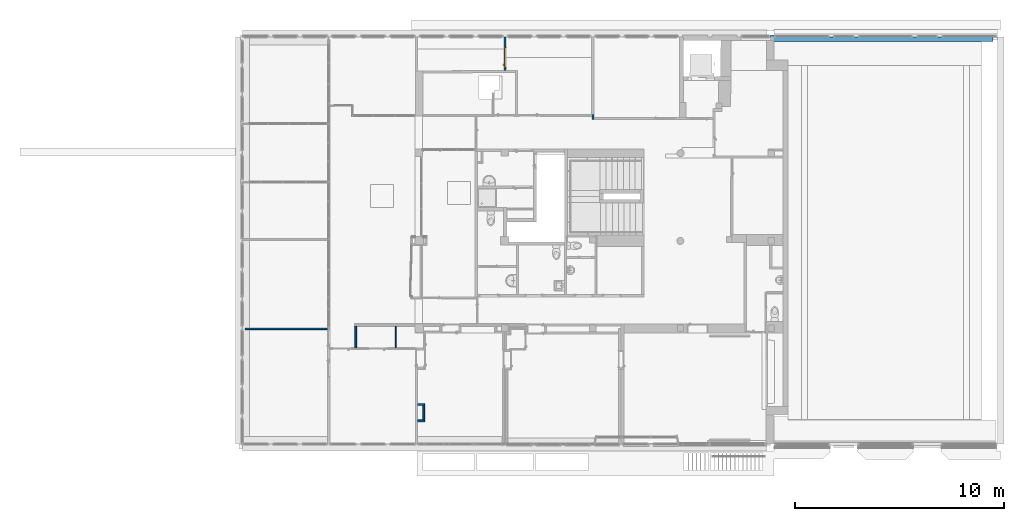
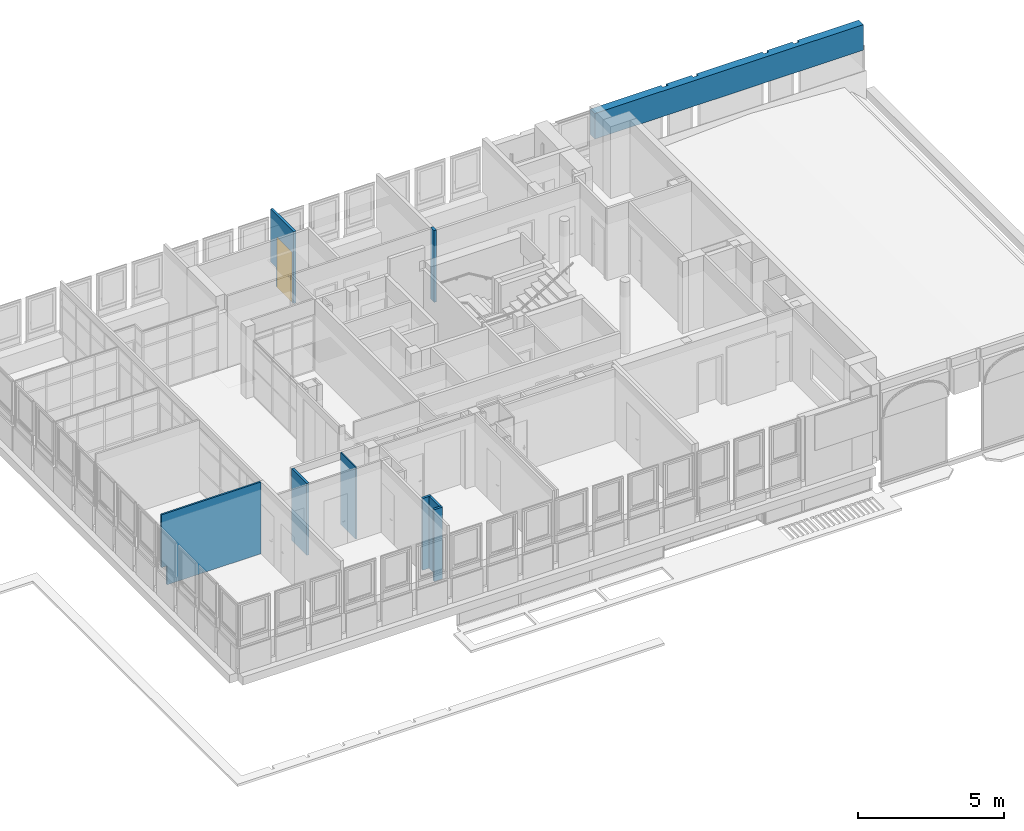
# One storey, part 51 of 97: 9 walls, 1 door, 2 openings.
"""IFC4 building model written with IfcOpenShell, lengths in metres."""

import ifcopenshell
import ifcopenshell.guid

model = None  # the IFC model being written
_history = None  # IfcOwnerHistory: only IFC2X3 demands one
_inside = {}  # id of a spatial element -> (the spatial element, [elements in it])
_under = {}  # id of a project, library or spatial element -> (it, [spatial elements below it])
_declared = {}  # id of a project -> (the project, [libraries it declares])
_typed = {}  # id of a type object -> (the type object, [elements of that type])
_made_of = {}  # id of a material, layer set ... -> (it, [elements and type objects made of it])


def new_model(schema):
    """Start an empty IFC model of exactly this schema.

    Asked for "IFC4X3", IfcOpenShell would pick the latest addendum, in which some entities
    have other attributes; the version numbers below select the first issue.
    IFC2X3 requires an IfcOwnerHistory on every rooted entity: one is made here for all.
    """
    global model, _history
    if schema == "IFC4X3":
        model = ifcopenshell.file(schema_version=(4, 3, 0, 0))
    else:
        model = ifcopenshell.file(schema=schema)
    _inside.clear()
    _under.clear()
    _declared.clear()
    _typed.clear()
    _made_of.clear()
    _history = None
    if model.schema == "IFC2X3":
        org = make("IfcOrganization", Name="unknown")
        user = make(
            "IfcPersonAndOrganization",
            ThePerson=make("IfcPerson", FamilyName="unknown"),
            TheOrganization=org,
        )
        app = make(
            "IfcApplication",
            ApplicationDeveloper=org,
            Version="unknown",
            ApplicationFullName="unknown",
            ApplicationIdentifier="unknown",
        )
        _history = make(
            "IfcOwnerHistory",
            OwningUser=user,
            OwningApplication=app,
            ChangeAction="ADDED",
            CreationDate=0,
        )
    return model


def make(cls, **values):
    """One entity of the class cls with the attributes given. An attribute that is None is left unset."""
    return model.create_entity(
        cls, **{name: value for name, value in values.items() if value is not None}
    )


def entity(cls, *values):
    """Any entity or typed value of the class cls, its attributes in the order of the schema. None: left unset."""
    e = model.create_entity(cls)
    for i, value in enumerate(values):
        if value is not None:
            e[i] = value
    return e


def rooted(cls, **values):
    """An entity with a GlobalId (a new one), such as an element, a storey or a relation."""
    return make(cls, GlobalId=ifcopenshell.guid.new(), OwnerHistory=_history, **values)


def si_unit(unit_type, name, prefix=None):
    """IfcSIUnit, for example si_unit("LENGTHUNIT", "METRE", prefix="MILLI")."""
    return make("IfcSIUnit", UnitType=unit_type, Prefix=prefix, Name=name)


def converted_unit(unit_type, name, factor, base, dimensions=None, offset=None):
    """IfcConversionBasedUnit, such as the inch: factor (a typed value) times the base unit."""
    return make(
        "IfcConversionBasedUnit"
        if offset is None
        else "IfcConversionBasedUnitWithOffset",
        ConversionOffset=offset,
        Dimensions=None
        if dimensions is None
        else entity("IfcDimensionalExponents", *dimensions),
        UnitType=unit_type,
        Name=name,
        ConversionFactor=make(
            "IfcMeasureWithUnit", ValueComponent=factor, UnitComponent=base
        ),
    )


def derived_unit(unit_type, elements):
    """IfcDerivedUnit: a product of units, each with its exponent."""
    return make(
        "IfcDerivedUnit",
        Elements=[
            make("IfcDerivedUnitElement", Unit=unit, Exponent=power)
            for unit, power in elements
        ],
        UnitType=unit_type,
    )


def assignment(units):
    """IfcUnitAssignment: the units of a project."""
    return None if units is None else make("IfcUnitAssignment", Units=units)


def point(xyz):
    """IfcCartesianPoint."""
    return None if xyz is None else make("IfcCartesianPoint", Coordinates=xyz)


def direction(xyz):
    """IfcDirection."""
    return None if xyz is None else make("IfcDirection", DirectionRatios=xyz)


def frame(location, z_axis=None, x_axis=None):
    """IfcAxis2Placement3D, a coordinate frame: its origin and axes. An axis left out is left unset."""
    return make(
        "IfcAxis2Placement3D",
        Location=point(location),
        Axis=direction(z_axis),
        RefDirection=direction(x_axis),
    )


def origin():
    """The frame at (0, 0, 0) with its axes left unset."""
    return frame((0.0, 0.0, 0.0))


def place(relative_to, where):
    """IfcLocalPlacement: puts the frame where relative to a parent placement (None: the world)."""
    return make(
        "IfcLocalPlacement", PlacementRelTo=relative_to, RelativePlacement=where
    )


def context(
    kind, dimensions, precision=None, world=None, true_north=None, identifier=None
):
    """IfcGeometricRepresentationContext, for example the 3D "Model" context."""
    return make(
        "IfcGeometricRepresentationContext",
        ContextIdentifier=identifier,
        ContextType=kind,
        CoordinateSpaceDimension=dimensions,
        Precision=precision,
        WorldCoordinateSystem=world,
        TrueNorth=true_north,
    )


def subcontext(parent, identifier, kind, view, scale=None):
    """IfcGeometricRepresentationSubContext, for example "Body" below "Model"."""
    return make(
        "IfcGeometricRepresentationSubContext",
        ContextIdentifier=identifier,
        ContextType=kind,
        ParentContext=parent,
        TargetScale=scale,
        TargetView=view,
    )


def project(units=None, contexts=None):
    """IfcProject with its units and contexts."""
    return rooted(
        "IfcProject",
        Name="project",
        RepresentationContexts=contexts,
        UnitsInContext=assignment(units),
    )


def spatial(cls, under=None, at=None, **own):
    """A site, building, storey or space (cls), placed at a placement, below another one or the project."""
    s = rooted(cls, ObjectPlacement=at, **own)
    if under is not None:
        _under.setdefault(under.id(), (under, []))[1].append(s)
    return s


def point_list(points):
    """IfcCartesianPointList2D or 3D."""
    cls = (
        "IfcCartesianPointList2D" if len(points[0]) == 2 else "IfcCartesianPointList3D"
    )
    return make(cls, CoordList=points)


def indexed_curve(points, segments=None, self_intersect=None):
    """IfcIndexedPolyCurve: lines and arcs through numbered points (the first is 1)."""
    return make(
        "IfcIndexedPolyCurve",
        Points=point_list(points),
        Segments=segments,
        SelfIntersect=self_intersect,
    )


def outline(outer, holes=None, kind="AREA"):
    """IfcArbitraryClosedProfileDef: a profile drawn as a closed curve; with holes, ...WithVoids."""
    if holes is None:
        return make("IfcArbitraryClosedProfileDef", ProfileType=kind, OuterCurve=outer)
    return make(
        "IfcArbitraryProfileDefWithVoids",
        ProfileType=kind,
        OuterCurve=outer,
        InnerCurves=holes,
    )


def extrude(swept, where, along, depth):
    """IfcExtrudedAreaSolid: the profile swept, set in the frame where, extruded along a direction by depth."""
    return make(
        "IfcExtrudedAreaSolid",
        SweptArea=swept,
        Position=where,
        ExtrudedDirection=direction(along),
        Depth=depth,
    )


def polygons(points, faces, closed=None, point_numbers=None):
    """IfcPolygonalFaceSet: a face is its outer loop, then its inner loops; points numbered from 1."""
    made = []
    for loops in faces:
        if len(loops) == 1:
            made.append(make("IfcIndexedPolygonalFace", CoordIndex=loops[0]))
        else:
            made.append(
                make(
                    "IfcIndexedPolygonalFaceWithVoids",
                    CoordIndex=loops[0],
                    InnerCoordIndices=loops[1:],
                )
            )
    return make(
        "IfcPolygonalFaceSet",
        Coordinates=point_list(points),
        Closed=closed,
        Faces=made,
        PnIndex=point_numbers,
    )


def shape(context_of_items, identifier, shape_type, items):
    """IfcShapeRepresentation: the items that make up one representation, for example the "Body"."""
    return make(
        "IfcShapeRepresentation",
        ContextOfItems=context_of_items,
        RepresentationIdentifier=identifier,
        RepresentationType=shape_type,
        Items=items,
    )


def source(mapping_origin, context_of_items, identifier, shape_type, items):
    """IfcRepresentationMap: a shape defined once, which mapped items show again and again."""
    return make(
        "IfcRepresentationMap",
        MappingOrigin=mapping_origin,
        MappedRepresentation=shape(context_of_items, identifier, shape_type, items),
    )


def transform(
    local_origin,
    x_axis=None,
    y_axis=None,
    z_axis=None,
    scale=None,
    scale2=None,
    scale3=None,
    uniform=True,
):
    """IfcCartesianTransformationOperator3D, or its non-uniform kind. x_axis, y_axis, z_axis: its Axis1, 2, 3."""
    if uniform:
        return make(
            "IfcCartesianTransformationOperator3D",
            Axis1=direction(x_axis),
            Axis2=direction(y_axis),
            LocalOrigin=point(local_origin),
            Scale=scale,
            Axis3=direction(z_axis),
        )
    return make(
        "IfcCartesianTransformationOperator3DnonUniform",
        Axis1=direction(x_axis),
        Axis2=direction(y_axis),
        LocalOrigin=point(local_origin),
        Scale=scale,
        Axis3=direction(z_axis),
        Scale2=scale2,
        Scale3=scale3,
    )


def mapped(mapping_source, mapping_target):
    """IfcMappedItem: shows the shape of a source again, moved by a transform."""
    return make(
        "IfcMappedItem", MappingSource=mapping_source, MappingTarget=mapping_target
    )


def material(Name=None, Category=None):
    """IfcMaterial."""
    return make("IfcMaterial", Name=Name, Category=Category)


def material_list(materials):
    """IfcMaterialList."""
    return make("IfcMaterialList", Materials=materials)


def layer(
    of_material, thickness, ventilated=None, Name=None, Category=None, Priority=None
):
    """IfcMaterialLayer: one layer of a wall or slab, of a material (None: an air gap)."""
    return make(
        "IfcMaterialLayer",
        Material=of_material,
        LayerThickness=thickness,
        IsVentilated=ventilated,
        Name=Name,
        Category=Category,
        Priority=Priority,
    )


def layer_set(layers, Name=None):
    """IfcMaterialLayerSet."""
    return make("IfcMaterialLayerSet", MaterialLayers=layers, LayerSetName=Name)


def constituent(of_material, Name=None, Category=None, fraction=None):
    """IfcMaterialConstituent: one of the materials an element consists of."""
    return make(
        "IfcMaterialConstituent",
        Name=Name,
        Material=of_material,
        Fraction=fraction,
        Category=Category,
    )


def constituent_set(constituents=None, Name=None):
    """IfcMaterialConstituentSet."""
    return make(
        "IfcMaterialConstituentSet", Name=Name, MaterialConstituents=constituents
    )


def made_of(thing, what):
    """Note that an element or type object is made of a material, layer set ...; save() writes the relation."""
    if what is not None:
        _made_of.setdefault(what.id(), (what, []))[1].append(thing)
    return thing


def type_object(cls, material=None, **own):
    """A type object (cls), such as IfcWallType, which elements share."""
    return made_of(rooted(cls, **own), material)


def type_shapes(of_type, sources):
    """Give a type object the sources (RepresentationMaps) that its elements show as mapped items."""
    of_type.RepresentationMaps = sources


def element(
    cls,
    number,
    at=None,
    inside=None,
    cuts=None,
    type_object=None,
    material=None,
    context=None,
    identifier="Body",
    shape_type=None,
    held_by="IfcProductDefinitionShape",
    body=None,
    shapes=None,
    **own,
):
    """One element of the class cls, such as IfcWall. Its Tag is "e" and its number.

    at: its placement. inside: the storey or other place that contains it. cuts: it is an
    opening in that element (IfcRelVoidsElement). A single representation is given by context,
    identifier, shape_type and body (its items); several are given by shapes. held_by: the class
    of the entity that holds the representations. save() writes the other relations.
    """
    e = rooted(cls, Tag="e%d" % number, ObjectPlacement=at, **own)
    if body is not None:
        shapes = [shape(context, identifier, shape_type, body)]
    if shapes is not None:
        e.Representation = make(held_by, Representations=shapes)
    if inside is not None:
        _inside.setdefault(inside.id(), (inside, []))[1].append(e)
    if cuts is not None:
        rooted(
            "IfcRelVoidsElement", RelatingBuildingElement=cuts, RelatedOpeningElement=e
        )
    if type_object is not None:
        _typed.setdefault(type_object.id(), (type_object, []))[1].append(e)
    return made_of(e, material)


def fill(opening, filler):
    """IfcRelFillsElement: the door or window that sits in an opening."""
    return rooted(
        "IfcRelFillsElement",
        RelatingOpeningElement=opening,
        RelatedBuildingElement=filler,
    )


def aggregate(whole, parts):
    """IfcRelAggregates: a whole, such as a stair, and the parts it consists of."""
    return rooted("IfcRelAggregates", RelatingObject=whole, RelatedObjects=parts)


def save(model, path):
    """Write the relations noted so far, then the file.

    IfcRelAggregates (storeys below a building ...), IfcRelContainedInSpatialStructure (elements
    in a storey), IfcRelDefinesByType, IfcRelAssociatesMaterial and IfcRelDeclares: one each for
    every whole, place, type object, material and project.
    """
    for whole, parts in _under.values():
        aggregate(whole, parts)
    for where, things in _inside.values():
        rooted(
            "IfcRelContainedInSpatialStructure",
            RelatedElements=things,
            RelatingStructure=where,
        )
    for kind, things in _typed.values():
        rooted("IfcRelDefinesByType", RelatedObjects=things, RelatingType=kind)
    for what, things in _made_of.values():
        rooted("IfcRelAssociatesMaterial", RelatedObjects=things, RelatingMaterial=what)
    for by, libraries in _declared.values():
        rooted("IfcRelDeclares", RelatingContext=by, RelatedDefinitions=libraries)
    model.write(path)


model = new_model("IFC4")

# Units and contexts
model_context = context("Model", 3, precision=1e-05, world=origin(), true_north=direction((6.12303176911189e-17, 1.0)))
body_context = subcontext(model_context, "Body", "Model", "MODEL_VIEW")
ifc_project = project(units=[si_unit("LENGTHUNIT", "METRE"), si_unit("AREAUNIT", "SQUARE_METRE"), si_unit("VOLUMEUNIT", "CUBIC_METRE"), converted_unit("PLANEANGLEUNIT", "DEGREE", entity("IfcRatioMeasure", 0.0174532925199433), si_unit("PLANEANGLEUNIT", "RADIAN"), dimensions=[0, 0, 0, 0, 0, 0, 0]), si_unit("MASSUNIT", "GRAM", prefix="KILO"), derived_unit("MASSDENSITYUNIT", [(si_unit("MASSUNIT", "GRAM", prefix="KILO"), 1), (si_unit("LENGTHUNIT", "METRE"), -3)]), derived_unit("MOMENTOFINERTIAUNIT", [(si_unit("LENGTHUNIT", "METRE"), 4)]), si_unit("TIMEUNIT", "SECOND"), si_unit("FREQUENCYUNIT", "HERTZ"), si_unit("THERMODYNAMICTEMPERATUREUNIT", "DEGREE_CELSIUS"), derived_unit("THERMALTRANSMITTANCEUNIT", [(si_unit("MASSUNIT", "GRAM", prefix="KILO"), 1), (si_unit("THERMODYNAMICTEMPERATUREUNIT", "KELVIN"), -1), (si_unit("TIMEUNIT", "SECOND"), -3)]), derived_unit("VOLUMETRICFLOWRATEUNIT", [(si_unit("LENGTHUNIT", "METRE"), 3), (si_unit("TIMEUNIT", "SECOND"), -1)]), si_unit("ELECTRICCURRENTUNIT", "AMPERE"), si_unit("ELECTRICVOLTAGEUNIT", "VOLT"), si_unit("POWERUNIT", "WATT"), si_unit("FORCEUNIT", "NEWTON", prefix="KILO"), si_unit("ILLUMINANCEUNIT", "LUX"), si_unit("LUMINOUSFLUXUNIT", "LUMEN"), si_unit("LUMINOUSINTENSITYUNIT", "CANDELA"), derived_unit("USERDEFINED", [(si_unit("MASSUNIT", "GRAM", prefix="KILO"), -1), (si_unit("LENGTHUNIT", "METRE"), -2), (si_unit("TIMEUNIT", "SECOND"), 3), (si_unit("LUMINOUSFLUXUNIT", "LUMEN"), 1)]), derived_unit("LINEARVELOCITYUNIT", [(si_unit("LENGTHUNIT", "METRE"), 1), (si_unit("TIMEUNIT", "SECOND"), -1)]), si_unit("PRESSUREUNIT", "PASCAL"), derived_unit("USERDEFINED", [(si_unit("LENGTHUNIT", "METRE"), -2), (si_unit("MASSUNIT", "GRAM", prefix="KILO"), 1), (si_unit("TIMEUNIT", "SECOND"), -2)]), derived_unit("LINEARFORCEUNIT", [(si_unit("MASSUNIT", "GRAM", prefix="KILO"), 1), (si_unit("LENGTHUNIT", "METRE"), 1), (si_unit("TIMEUNIT", "SECOND"), -2), (si_unit("LENGTHUNIT", "METRE"), -1)]), derived_unit("PLANARFORCEUNIT", [(si_unit("MASSUNIT", "GRAM", prefix="KILO"), 1), (si_unit("LENGTHUNIT", "METRE"), 1), (si_unit("TIMEUNIT", "SECOND"), -2), (si_unit("LENGTHUNIT", "METRE"), -2)])], contexts=[model_context])

# Site, building, storey
site_placement = place(None, origin())
site = spatial("IfcSite", under=ifc_project, at=site_placement, Name="Default", CompositionType="ELEMENT")
building_placement = place(site_placement, origin())
building = spatial("IfcBuilding", under=site, at=building_placement, Name="HOTEL CONSULAIRE BOULOGNE SUR MER", CompositionType="ELEMENT")
storey_placement = place(building_placement, frame((0.0, 0.0, 3.62152697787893)))
storey = spatial("IfcBuildingStorey", under=building, at=storey_placement, Name="Niveau 1", CompositionType="ELEMENT", Elevation=3.62152697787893)

# Wall
ifc_material_1 = material(Name="Mur par défaut", Category="Divers")
ifc_layer_1 = layer(ifc_material_1, 0.05, Name="Mur par défaut", Category="Divers")
ifc_layer_set_1 = layer_set([ifc_layer_1], Name="Mur de base:Générique - Int.50")
wall_type_1 = type_object("IfcWallType", Name="Mur de base:Générique - Int.50", PredefinedType="NOTDEFINED", material=ifc_layer_set_1)
wall_1_placement = place(storey_placement, frame((-6.45177317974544, -24.953647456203, 0.0), z_axis=(0.0, 0.0, 1.0), x_axis=(0.0, 1.0, 0.0)))
element("IfcWall", 1, at=wall_1_placement, inside=storey, type_object=wall_type_1, material=ifc_layer_set_1, Name="Mur de base:Générique - Int.50", ObjectType="Mur de base:Générique - Int.50", PredefinedType="NOTDEFINED", context=body_context, shape_type="Tessellation", body=[
    polygons([(1.03895600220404, -0.0250000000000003, 3.01021454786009), (0.0, -0.0250000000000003, 3.01021454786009), (0.0, -0.0250000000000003, 0.0), (1.03895600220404, -0.0250000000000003, 0.0), (0.0, 0.0250000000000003, 3.01021454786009), (1.03895600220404, 0.0250000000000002, 3.01021454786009), (1.03895600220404, 0.0250000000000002, 0.0), (0.0, 0.0250000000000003, 0.0)], [[[2, 3, 4, 1]], [[6, 7, 8, 5]], [[2, 1, 6, 5]], [[4, 7, 6, 1]], [[8, 3, 2, 5]], [[4, 3, 8, 7]]], closed=True),
])

# Wall, opening
ifc_layer_2 = layer(ifc_material_1, 0.07, Name="Mur par défaut", Category="Divers")
ifc_layer_set_2 = layer_set([ifc_layer_2], Name="Mur de base:Générique - Int. 70 mm")
wall_type_2 = type_object("IfcWallType", Name="Mur de base:Générique - Int. 70 mm", PredefinedType="NOTDEFINED", material=ifc_layer_set_2)
wall_2_placement = place(storey_placement, frame((-13.6630998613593, -24.0442596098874, 0.0)))
wall_2 = element("IfcWall", 2, at=wall_2_placement, inside=storey, type_object=wall_type_2, material=ifc_layer_set_2, Name="Mur de base:Générique - Int. 70 mm", ObjectType="Mur de base:Générique - Int. 70 mm", PredefinedType="NOTDEFINED", context=body_context, shape_type="Tessellation", body=[
    polygons([(3.93869787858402, -0.035000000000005, 3.01021454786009), (6.43228108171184e-16, -0.0350000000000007, 3.01021454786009), (6.43228108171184e-16, -0.0350000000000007, 0.791612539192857), (0.22, -0.0350000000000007, 0.791612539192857), (0.22, -0.0350000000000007, 0.0), (3.93869787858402, -0.035000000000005, 0.0), (4.33592422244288e-16, 0.0350000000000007, 3.01021454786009), (3.93869787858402, 0.0349999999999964, 3.01021454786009), (3.93869787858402, 0.0349999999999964, 0.0), (0.22, 0.0350000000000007, 0.0), (0.22, 0.0350000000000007, 0.791612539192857), (4.33592422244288e-16, 0.0350000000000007, 0.791612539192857), (3.93869787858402, -0.0169999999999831, 0.0)], [[[4, 5, 6, 1, 2, 3]], [[8, 9, 10, 11, 12, 7]], [[13, 9, 8, 1, 6]], [[2, 1, 8, 7]], [[3, 2, 7, 12]], [[5, 4, 11, 10]], [[4, 3, 12, 11]], [[13, 6, 5, 10, 9]]], closed=True),
])
opening_1_placement = place(wall_2_placement, origin())
element("IfcOpeningElement", 3, at=opening_1_placement, cuts=wall_2, Name="Mur de base:Générique - Int. 70 mm", ObjectType="Opening", PredefinedType="OPENING", context=body_context, shape_type="SweptSolid", body=[
    extrude(outline(indexed_curve([(-0.413306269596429, -0.109999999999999), (0.413306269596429, -0.109999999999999), (0.413306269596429, 0.110000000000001), (-0.413306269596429, 0.110000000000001), (-0.413306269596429, -0.109999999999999)], self_intersect=False)), frame((0.110000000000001, 0.0350000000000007, 0.378306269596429), z_axis=(0.0, -1.0, 0.0), x_axis=(0.0, 0.0, 1.0)), (0.0, 0.0, 1.0), 0.07),
])

# Wall, opening, door
ifc_layer_3 = layer(ifc_material_1, 0.1, Name="Mur par défaut", Category="Divers")
ifc_layer_set_3 = layer_set([ifc_layer_3], Name="Mur de base:Générique - Int. 100 mm")
wall_type_3 = type_object("IfcWallType", Name="Mur de base:Générique - Int. 100 mm", PredefinedType="NOTDEFINED", material=ifc_layer_set_3)
wall_3_placement = place(storey_placement, frame((-1.21703968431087, -11.6766817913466, 0.0), z_axis=(0.0, 0.0, 1.0), x_axis=(0.0, 1.0, 0.0)))
wall_3 = element("IfcWall", 4, at=wall_3_placement, inside=storey, type_object=wall_type_3, material=ifc_layer_set_3, Name="Mur de base:Générique - Int. 100 mm", ObjectType="Mur de base:Générique - Int. 100 mm", PredefinedType="NOTDEFINED", context=body_context, shape_type="Tessellation", body=[
    polygons([(1.22135762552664, -0.0499999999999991, 0.0), (1.11535762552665, -0.0499999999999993, 0.0), (1.11535762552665, 0.0499999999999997, 0.0), (1.22135762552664, 0.0499999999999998, 0.0), (1.59101325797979, -0.0499999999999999, 3.01021454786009), (0.000843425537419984, -0.0499999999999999, 3.01021454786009), (0.000843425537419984, -0.0499999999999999, 0.0), (0.115357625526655, -0.0499999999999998, 0.0), (0.115357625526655, -0.0499999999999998, 2.075), (1.11535762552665, -0.0499999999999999, 2.075), (1.22135762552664, -0.0499999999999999, 0.791612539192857), (1.59101325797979, -0.0499999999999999, 0.791612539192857), (0.0, 0.0500000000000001, 3.01021454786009), (1.59101325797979, 0.0500000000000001, 3.01021454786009), (1.59101325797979, 0.0500000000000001, 0.791612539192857), (1.22135762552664, 0.0500000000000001, 0.791612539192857), (1.11535762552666, 0.0500000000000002, 2.075), (0.115357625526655, 0.05, 2.075), (0.115357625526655, 0.05, 0.0), (0.0, 0.0500000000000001, 0.0)], [[[1, 2, 3, 4]], [[18, 17, 10, 9]], [[12, 11, 16, 15]], [[19, 8, 7, 20]], [[7, 8, 9, 10, 2, 1, 11, 12, 5, 6]], [[4, 3, 17, 18, 19, 20, 13, 14, 15, 16]], [[20, 7, 6, 13]], [[17, 3, 2, 10]], [[19, 18, 9, 8]], [[11, 1, 4, 16]], [[5, 12, 15, 14]], [[6, 5, 14, 13]]], closed=True),
])
opening_2_placement = place(wall_3_placement, frame((0.115357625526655, -0.0499999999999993, 0.0)))
opening_2 = element("IfcOpeningElement", 5, at=opening_2_placement, cuts=wall_3, Name="Int. Simple:PP0.93x2.04:1", ObjectType="Opening", PredefinedType="OPENING", context=body_context, shape_type="SweptSolid", body=[
    extrude(outline(indexed_curve([(0.0, 1.0), (0.0, 0.0), (2.075, 0.0), (2.075, 1.0), (0.0, 1.0)], self_intersect=False)), frame((0.0, 0.0, 0.0), z_axis=(0.0, 1.0, 0.0), x_axis=(0.0, 0.0, 1.0)), (0.0, 0.0, 1.0), 0.1),
])
ifc_material_2 = material(Name="Finition Peinture - Blanc satiné", Category="Peinture")
ifc_constituent_1 = constituent(ifc_material_2, Name="Finition Peinture - Blanc satiné", Category="Matériaux")
ifc_material_3 = material(Name="Bois - Panneau de porte", Category="Bois")
ifc_constituent_2 = constituent(ifc_material_3, Name="Bois - Panneau de porte", Category="Matériaux")
ifc_material_4 = material(Name="Bois - Cadre de porte", Category="Bois")
ifc_constituent_3 = constituent(ifc_material_4, Name="Bois - Cadre de porte", Category="Matériaux")
ifc_constituent_set = constituent_set(constituents=[ifc_constituent_1, ifc_constituent_2, ifc_constituent_3], Name="MaterialConstituentSet")
ifc_material_list = material_list([ifc_material_3, ifc_material_2, ifc_material_4, ifc_material_4])
door_type = type_object("IfcDoorType", Name="Int. Simple:PP0.93x2.04", OperationType="NOTDEFINED", PredefinedType="DOOR", material=ifc_material_list)
shared_shape = source(origin(), body_context, "Body", "Tessellation", [
    polygons([(0.995000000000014, -0.00500000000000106, 0.870000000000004), (0.995000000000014, -0.00500000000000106, 1.08), (0.985352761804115, -0.00500000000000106, 1.08399601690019), (0.975000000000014, -0.00500000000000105, 1.08535898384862), (0.964647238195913, -0.00500000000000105, 1.08399601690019), (0.955000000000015, -0.00500000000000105, 1.08), (0.955000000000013, -0.00500000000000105, 0.870000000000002), (0.964647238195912, -0.00500000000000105, 0.866003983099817), (0.975000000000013, -0.00500000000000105, 0.86464101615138), (0.985352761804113, -0.00500000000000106, 0.866003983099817), (0.995000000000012, -1.06594733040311e-15, 0.870000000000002), (0.985352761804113, -1.06594733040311e-15, 0.866003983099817), (0.975000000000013, -1.05748743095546e-15, 0.86464101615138), (0.964647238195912, -1.05748743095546e-15, 0.866003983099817), (0.955000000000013, -1.04902753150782e-15, 0.870000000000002), (0.955000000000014, -1.04902753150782e-15, 1.08), (0.964647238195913, -1.05748743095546e-15, 1.08399601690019), (0.975000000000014, -1.05748743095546e-15, 1.08535898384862), (0.985352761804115, -1.06594733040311e-15, 1.08399601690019), (0.995000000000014, -1.06594733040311e-15, 1.08)], [[[1, 2, 3, 4, 5, 6, 7, 8, 9, 10]], [[20, 11, 12, 13, 14, 15, 16, 17, 18, 19]], [[10, 12, 11, 1]], [[9, 13, 12, 10]], [[8, 14, 13, 9]], [[8, 7, 15, 14]], [[15, 7, 6, 16]], [[5, 17, 16, 6]], [[4, 18, 17, 5]], [[3, 19, 18, 4]], [[3, 2, 20, 19]], [[11, 20, 2, 1]]], closed=True),
    polygons([(0.955000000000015, 0.0399999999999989, 1.08), (0.955000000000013, 0.0399999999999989, 0.870000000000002), (0.964647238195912, 0.0399999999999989, 0.866003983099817), (0.975000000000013, 0.0399999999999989, 0.86464101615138), (0.985352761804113, 0.0399999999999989, 0.866003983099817), (0.995000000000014, 0.0399999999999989, 0.870000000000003), (0.995000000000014, 0.0399999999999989, 1.08), (0.985352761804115, 0.0399999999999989, 1.08399601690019), (0.975000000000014, 0.0399999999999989, 1.08535898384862), (0.964647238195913, 0.0399999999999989, 1.08399601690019), (0.955000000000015, 0.0449999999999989, 1.08), (0.964647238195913, 0.0449999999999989, 1.08399601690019), (0.975000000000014, 0.0449999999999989, 1.08535898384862), (0.985352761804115, 0.0449999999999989, 1.08399601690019), (0.995000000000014, 0.0449999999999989, 1.08), (0.995000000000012, 0.0449999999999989, 0.870000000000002), (0.985352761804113, 0.0449999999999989, 0.866003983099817), (0.975000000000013, 0.0449999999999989, 0.86464101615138), (0.964647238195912, 0.0449999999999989, 0.866003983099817), (0.955000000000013, 0.0449999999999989, 0.870000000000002)], [[[6, 7, 8, 9, 10, 1, 2, 3, 4, 5]], [[13, 14, 15, 16, 17, 18, 19, 20, 11, 12]], [[10, 12, 11, 1]], [[9, 13, 12, 10]], [[8, 14, 13, 9]], [[8, 7, 15, 14]], [[16, 15, 7, 6]], [[5, 17, 16, 6]], [[4, 18, 17, 5]], [[3, 19, 18, 4]], [[3, 2, 20, 19]], [[20, 2, 1, 11]]], closed=True),
    polygons([(0.981000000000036, -0.00500000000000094, 1.00699999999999), (0.981000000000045, -0.00500000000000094, 0.992999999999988), (0.977025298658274, -0.00500000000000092, 0.99221955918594), (0.972974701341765, -0.0050000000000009, 0.992219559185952), (0.968999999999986, -0.00500000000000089, 0.993000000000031), (0.968999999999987, -0.00500000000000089, 1.007), (0.972974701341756, -0.0050000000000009, 1.00778044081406), (0.977025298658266, -0.00500000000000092, 1.00778044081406), (0.968999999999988, -0.0276803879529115, 1.007), (0.972974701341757, -0.0293267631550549, 1.00778044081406), (0.977025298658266, -0.0310045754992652, 1.00778044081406), (0.981000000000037, -0.0326509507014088, 1.007), (0.968999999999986, -0.0276803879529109, 0.993000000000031), (0.981000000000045, -0.0326509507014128, 0.992999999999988), (0.977025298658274, -0.0310045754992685, 0.99221955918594), (0.972974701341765, -0.0293267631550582, 0.992219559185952), (0.957652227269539, -0.0390281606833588, 1.007), (0.959298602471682, -0.0430028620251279, 1.00778044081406), (0.960976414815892, -0.0470534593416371, 1.00778044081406), (0.962622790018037, -0.051028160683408, 1.007), (0.957652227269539, -0.0390281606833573, 0.993000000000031), (0.96262279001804, -0.0510281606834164, 0.992999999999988), (0.960976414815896, -0.0470534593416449, 0.99221955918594), (0.959298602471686, -0.0430028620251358, 0.992219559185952), (0.874981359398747, -0.0510281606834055, 1.007), (0.874981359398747, -0.0470534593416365, 1.00778044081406), (0.874981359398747, -0.0430028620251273, 1.00778044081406), (0.874981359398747, -0.0390281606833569, 1.00699999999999), (0.874981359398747, -0.0390281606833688, 0.993000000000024), (0.874981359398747, -0.0430028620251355, 0.992219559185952), (0.874981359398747, -0.0470534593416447, 0.99221955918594), (0.874981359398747, -0.0510281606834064, 0.992999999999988), (0.922692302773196, -0.051028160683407, 1.007), (0.917139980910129, -0.045028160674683, 1.0078786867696), (0.916316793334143, -0.039028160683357, 1.007), (0.922692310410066, -0.0510281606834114, 0.992999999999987), (0.917139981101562, -0.0450281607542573, 0.992121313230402), (0.916316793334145, -0.0390281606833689, 0.993000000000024)], [[[7, 8, 1, 2, 3, 4, 5, 6]], [[17, 21, 38, 29, 28, 35]], [[1, 8, 11, 12]], [[8, 7, 10, 18, 19, 11]], [[7, 6, 9, 10]], [[13, 9, 6, 5]], [[25, 26, 27, 28, 29, 30, 31, 32]], [[4, 16, 13, 5]], [[4, 3, 15, 23, 24, 16]], [[2, 14, 15, 3]], [[12, 14, 2, 1]], [[12, 11, 19, 20]], [[10, 9, 17, 18]], [[21, 17, 9, 13]], [[13, 16, 24, 21]], [[15, 14, 22, 23]], [[20, 22, 14, 12]], [[34, 26, 33]], [[33, 26, 25]], [[33, 20, 19]], [[18, 35, 34]], [[35, 18, 17]], [[28, 27, 35]], [[34, 27, 26]], [[34, 35, 27]], [[34, 33, 19]], [[18, 34, 19]], [[37, 30, 38]], [[31, 37, 36]], [[24, 38, 21]], [[30, 29, 38]], [[31, 36, 32]], [[36, 23, 22]], [[37, 23, 36]], [[37, 24, 23]], [[37, 38, 24]], [[30, 37, 31]], [[22, 20, 33, 25, 32, 36]]], closed=True),
    polygons([(0.968999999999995, 0.0449999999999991, 0.993000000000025), (0.972974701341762, 0.0449999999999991, 0.992219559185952), (0.977025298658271, 0.0449999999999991, 0.99221955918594), (0.981000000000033, 0.044999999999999, 0.992999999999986), (0.981000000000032, 0.044999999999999, 1.007), (0.977025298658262, 0.0449999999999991, 1.00778044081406), (0.972974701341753, 0.0449999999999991, 1.00778044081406), (0.968999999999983, 0.0449999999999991, 1.007), (0.968999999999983, 0.067485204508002, 1.007), (0.968999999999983, 0.0674852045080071, 0.993000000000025), (0.981000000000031, 0.0724557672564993, 1.007), (0.977025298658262, 0.070809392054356, 1.00778044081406), (0.972974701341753, 0.0691315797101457, 1.00778044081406), (0.981000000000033, 0.0724557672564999, 0.992999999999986), (0.972974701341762, 0.0691315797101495, 0.992219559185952), (0.977025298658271, 0.0708093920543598, 0.99221955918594), (0.957514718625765, 0.0789704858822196, 1.007), (0.957514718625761, 0.0789704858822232, 0.993000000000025), (0.962485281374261, 0.0909704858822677, 1.007), (0.960838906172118, 0.0869957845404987, 1.00778044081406), (0.959161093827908, 0.0829451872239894, 1.00778044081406), (0.962485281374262, 0.0909704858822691, 0.992999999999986), (0.959161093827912, 0.0829451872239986, 0.992219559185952), (0.960838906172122, 0.0869957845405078, 0.99221955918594), (0.874954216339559, 0.0789704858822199, 0.993000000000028), (0.874954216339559, 0.0789704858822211, 1.007), (0.874954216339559, 0.0829451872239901, 1.00778044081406), (0.874954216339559, 0.0869957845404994, 1.00778044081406), (0.874954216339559, 0.0909704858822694, 1.007), (0.874954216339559, 0.0909704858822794, 0.992999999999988), (0.874954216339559, 0.086995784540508, 0.99221955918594), (0.874954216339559, 0.0829451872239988, 0.992219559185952), (0.922554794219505, 0.0909704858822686, 1.007), (0.917057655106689, 0.0849704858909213, 1.0078786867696), (0.916234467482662, 0.0789704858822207, 1.007), (0.922554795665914, 0.0909704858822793, 0.992999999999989), (0.917057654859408, 0.0849704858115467, 0.992121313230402), (0.916234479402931, 0.0789704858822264, 0.993000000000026)], [[[2, 3, 4, 5, 6, 7, 8, 1]], [[18, 17, 35, 26, 25, 38]], [[9, 10, 1, 8]], [[27, 28, 29, 30, 31, 32, 25, 26]], [[7, 13, 9, 8]], [[7, 6, 12, 20, 21, 13]], [[5, 11, 12, 6]], [[11, 5, 4, 14]], [[4, 3, 16, 14]], [[3, 2, 15, 23, 24, 16]], [[2, 1, 10, 15]], [[17, 18, 10, 9]], [[9, 13, 21, 17]], [[11, 19, 20, 12]], [[22, 19, 11, 14]], [[14, 16, 24, 22]], [[15, 10, 18, 23]], [[34, 27, 35]], [[28, 34, 33]], [[21, 35, 17]], [[27, 26, 35]], [[28, 33, 29]], [[33, 20, 19]], [[34, 20, 33]], [[34, 21, 20]], [[34, 35, 21]], [[27, 34, 28]], [[19, 22, 36, 30, 29, 33]], [[37, 31, 36]], [[36, 31, 30]], [[36, 22, 24]], [[23, 38, 37]], [[38, 23, 18]], [[25, 32, 38]], [[37, 32, 31]], [[37, 38, 32]], [[37, 36, 24]], [[23, 37, 24]]], closed=True),
    polygons([(1.03500000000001, 0.04, 2.04), (1.03500000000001, 0.04, 0.0), (0.105000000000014, 0.04, 0.0), (0.105000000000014, 0.04, 2.04), (1.03500000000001, 3.38395977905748e-17, 2.04), (0.105000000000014, 3.38395977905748e-17, 2.04), (0.105000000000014, 3.38395977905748e-17, 0.0), (1.03500000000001, 3.38395977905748e-17, 0.0)], [[[3, 4, 1, 2]], [[8, 5, 6, 7]], [[5, 1, 4, 6]], [[6, 4, 3, 7]], [[7, 3, 2, 8]], [[8, 2, 1, 5]]], closed=True),
    polygons([(1.07000000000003, 0.0, 0.0), (1.03500000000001, 0.0, 0.0), (1.03500000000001, 0.040000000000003, 0.0), (1.02000000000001, 0.040000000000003, 0.0), (1.02000000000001, 0.100000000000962, 0.0), (1.07000000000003, 0.100000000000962, 0.0), (1.07000000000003, 0.100000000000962, 2.07500000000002), (1.07000000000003, 0.0, 2.07500000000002), (1.02000000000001, 0.100000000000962, 2.025), (0.120000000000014, 0.100000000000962, 2.025), (0.120000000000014, 0.100000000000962, 3.59657255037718e-24), (0.0699999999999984, 0.100000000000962, 3.88816484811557e-25), (0.0699999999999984, 0.100000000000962, 2.07500000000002), (1.02000000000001, 0.040000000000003, 2.025), (1.03500000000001, 0.040000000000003, 2.04), (0.105000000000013, 0.040000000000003, 2.04), (0.105000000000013, 0.040000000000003, -4.78103047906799e-25), (0.120000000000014, 0.040000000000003, 2.24110802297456e-24), (0.120000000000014, 0.040000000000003, 2.025), (1.03500000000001, 0.0, 2.04), (0.0699999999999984, 0.0, 2.07500000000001), (0.0699999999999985, 0.0, -3.95490158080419e-25), (0.105000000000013, 0.0, -2.84752548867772e-24), (0.105000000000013, 0.0, 2.04)], [[[5, 6, 1, 2, 3, 4]], [[17, 23, 22, 12, 11, 18]], [[19, 10, 9, 14]], [[24, 16, 15, 20]], [[7, 8, 1, 6]], [[18, 11, 10, 19]], [[17, 16, 24, 23]], [[9, 10, 11, 12, 13, 7, 6, 5]], [[14, 9, 5, 4]], [[15, 3, 2, 20]], [[12, 22, 21, 13]], [[19, 14, 4, 3, 15, 16, 17, 18]], [[24, 20, 2, 1, 8, 21, 22, 23]], [[21, 8, 7, 13]]], closed=True),
    polygons([(1.05500000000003, 0.100000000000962, 0.0), (1.05500000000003, 0.105000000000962, 0.0), (1.08500000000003, 0.105000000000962, 0.0), (1.08500000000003, 0.100000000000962, 0.0), (1.08500000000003, 0.100000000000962, 2.09000000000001), (0.0550000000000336, 0.100000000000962, 2.09000000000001), (0.0550000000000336, 0.100000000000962, -9.00794238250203e-25), (0.0850000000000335, 0.100000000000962, -1.80158911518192e-24), (0.0850000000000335, 0.100000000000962, 2.06000000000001), (1.05500000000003, 0.100000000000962, 2.06000000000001), (1.08500000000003, 0.105000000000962, 2.09000000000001), (1.05500000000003, 0.105000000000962, 2.06000000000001), (0.0850000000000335, 0.105000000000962, 2.06000000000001), (0.0850000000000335, 0.105000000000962, -4.34281663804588e-24), (0.0550000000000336, 0.105000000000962, -5.48159974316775e-24), (0.0550000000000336, 0.105000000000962, 2.09000000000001)], [[[2, 3, 4, 1]], [[7, 15, 14, 8]], [[13, 12, 10, 9]], [[9, 10, 1, 4, 5, 6, 7, 8]], [[11, 5, 4, 3]], [[8, 14, 13, 9]], [[12, 13, 14, 15, 16, 11, 3, 2]], [[10, 12, 2, 1]], [[15, 7, 6, 16]], [[6, 5, 11, 16]]], closed=True),
    polygons([(1.05500000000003, -0.005, 0.0), (1.05500000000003, 0.0, 0.0), (1.08500000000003, 0.0, 0.0), (1.08500000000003, -0.005, 0.0), (0.0850000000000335, -0.005, 5.41433564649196e-16), (0.0550000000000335, -0.005, 5.41433564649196e-16), (0.0550000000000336, 0.0, 5.41433564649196e-16), (0.0850000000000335, 0.0, 5.41433564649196e-16), (1.08500000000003, -0.005, 2.09000000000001), (0.0550000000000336, -0.005, 2.09000000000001), (0.0850000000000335, -0.005, 2.06000000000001), (1.05500000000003, -0.005, 2.06000000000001), (1.08500000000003, 0.0, 2.09000000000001), (1.05500000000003, 0.0, 2.06000000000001), (0.0850000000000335, 0.0, 2.06000000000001), (0.0550000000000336, 0.0, 2.09000000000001)], [[[2, 3, 4, 1]], [[6, 7, 8, 5]], [[15, 14, 12, 11]], [[11, 12, 1, 4, 9, 10, 6, 5]], [[13, 9, 4, 3]], [[5, 8, 15, 11]], [[14, 15, 8, 7, 16, 13, 3, 2]], [[12, 14, 2, 1]], [[7, 6, 10, 16]], [[16, 10, 9, 13]]], closed=True),
])
type_shapes(door_type, [shared_shape])
door_placement = place(opening_2_placement, frame((1.07000000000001, 0.0999999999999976, 0.0), z_axis=(0.0, 0.0, 1.0), x_axis=(-1.0, 0.0, 0.0)))
door = element("IfcDoor", 6, at=door_placement, inside=storey, type_object=door_type, material=ifc_constituent_set, Name="Int. Simple:PP0.93x2.04", ObjectType="Int. Simple:PP0.93x2.04", OperationType="NOTDEFINED", OverallHeight=2.075, OverallWidth=1.0, PredefinedType="DOOR", context=body_context, shape_type="MappedRepresentation", body=[
    mapped(shared_shape, transform((0.0, 0.0, 0.0), scale=1.0)),
])
fill(opening_2, door)

# Walls
wall_4_placement = place(storey_placement, frame((2.9942977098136, -14.0307839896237, 0.0), z_axis=(0.0, 0.0, 1.0), x_axis=(0.0, 1.0, 0.0)))
element("IfcWall", 7, at=wall_4_placement, inside=storey, type_object=wall_type_3, material=ifc_layer_set_3, Name="Mur de base:Générique - Int. 100 mm", ObjectType="Mur de base:Générique - Int. 100 mm", PredefinedType="NOTDEFINED", context=body_context, shape_type="SweptSolid", body=[
    extrude(outline(indexed_curve([(0.239869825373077, 0.05), (0.0, 0.05), (0.0, -0.05), (0.239869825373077, -0.05), (0.239869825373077, 0.05)], self_intersect=False)), origin(), (0.0, 0.0, 1.0), 3.0102145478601),
])
ifc_layer_4 = layer(ifc_material_1, 0.09, Name="Mur par défaut", Category="Divers")
ifc_layer_set_4 = layer_set([ifc_layer_4], Name="Mur de base:Générique - Int. 90")
wall_type_4 = type_object("IfcWallType", Name="Mur de base:Générique - Int. 90", PredefinedType="NOTDEFINED", material=ifc_layer_set_4)
wall_5_placement = place(storey_placement, frame((-5.06780665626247, -27.66932216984, 0.0), z_axis=(0.0, 0.0, 1.0), x_axis=(-1.0, 0.0, 0.0)))
element("IfcWall", 8, at=wall_5_placement, inside=storey, type_object=wall_type_4, material=ifc_layer_set_4, Name="Mur de base:Générique - Int. 90", ObjectType="Mur de base:Générique - Int. 90", PredefinedType="NOTDEFINED", context=body_context, shape_type="Tessellation", body=[
    polygons([(0.339336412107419, -0.0450000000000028, 3.01021454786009), (0.0, -0.0450000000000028, 3.01021454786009), (0.0, -0.0450000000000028, 0.0), (0.339336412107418, -0.0450000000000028, 0.0), (0.0, 0.0449999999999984, 3.01021454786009), (0.0900000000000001, 0.0449999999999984, 3.01021454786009), (0.339336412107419, 0.0449999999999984, 3.01021454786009), (0.339336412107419, 0.0449999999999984, 0.0), (0.0900000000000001, 0.0449999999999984, 0.0), (0.0, 0.0449999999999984, 0.0)], [[[2, 3, 4, 1]], [[7, 8, 9, 10, 5, 6]], [[2, 1, 7, 6, 5]], [[4, 8, 7, 1]], [[5, 10, 3, 2]], [[4, 3, 10, 9, 8]]], closed=True),
])
wall_6_placement = place(storey_placement, frame((-5.06780665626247, -28.4538453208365, 0.0), z_axis=(0.0, 0.0, 1.0), x_axis=(-1.0, 0.0, 0.0)))
element("IfcWall", 9, at=wall_6_placement, inside=storey, type_object=wall_type_4, material=ifc_layer_set_4, Name="Mur de base:Générique - Int. 90", ObjectType="Mur de base:Générique - Int. 90", PredefinedType="NOTDEFINED", context=body_context, shape_type="Tessellation", body=[
    polygons([(0.339336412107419, -0.0450000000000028, 3.01021454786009), (0.0900000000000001, -0.0450000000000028, 3.01021454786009), (0.0, -0.0450000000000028, 3.01021454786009), (0.0, -0.0450000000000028, 0.0), (0.0900000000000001, -0.0450000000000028, 0.0), (0.339336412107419, -0.0450000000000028, 0.0), (0.0, 0.0449999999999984, 3.01021454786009), (0.339336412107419, 0.0449999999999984, 3.01021454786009), (0.339336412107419, 0.0449999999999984, 0.0), (0.0, 0.0449999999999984, 0.0)], [[[2, 3, 4, 5, 6, 1]], [[8, 9, 10, 7]], [[2, 1, 8, 7, 3]], [[6, 9, 8, 1]], [[7, 10, 4, 3]], [[5, 4, 10, 9, 6]]], closed=True),
])
wall_7_placement = place(storey_placement, frame((-5.11280665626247, -28.4088453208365, 0.0), z_axis=(0.0, 0.0, 1.0), x_axis=(0.0, 1.0, 0.0)))
element("IfcWall", 10, at=wall_7_placement, inside=storey, type_object=wall_type_4, material=ifc_layer_set_4, Name="Mur de base:Générique - Int. 90", ObjectType="Mur de base:Générique - Int. 90", PredefinedType="NOTDEFINED", context=body_context, shape_type="Tessellation", body=[
    polygons([(0.694523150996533, -0.0450000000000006, 3.01021454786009), (0.0, -0.0450000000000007, 3.01021454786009), (0.0, -0.0450000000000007, 0.0), (0.694523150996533, -0.0450000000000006, 0.0), (0.0, 0.0449999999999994, 3.01021454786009), (0.694523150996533, 0.0449999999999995, 3.01021454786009), (0.694523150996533, 0.0449999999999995, 0.0), (0.0, 0.0449999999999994, 0.0)], [[[2, 3, 4, 1]], [[6, 7, 8, 5]], [[2, 1, 6, 5]], [[8, 3, 2, 5]], [[4, 7, 6, 1]], [[7, 4, 3, 8]]], closed=True),
])
wall_8_placement = place(storey_placement, frame((-8.36813726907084, -24.953647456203, 0.0), z_axis=(0.0, 0.0, 1.0), x_axis=(0.0, 1.0, 0.0)))
element("IfcWall", 11, at=wall_8_placement, inside=storey, type_object=wall_type_4, material=ifc_layer_set_4, Name="Mur de base:Générique - Int. 90", ObjectType="Mur de base:Générique - Int. 90", PredefinedType="NOTDEFINED", context=body_context, shape_type="Tessellation", body=[
    polygons([(1.03895600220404, -0.0449999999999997, 3.01021454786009), (0.0, -0.0450000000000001, 3.01021454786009), (0.0, -0.0450000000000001, 0.0), (1.03895600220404, -0.0449999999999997, 0.0), (0.0, 0.045, 3.01021454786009), (1.03895600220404, 0.0450000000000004, 3.01021454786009), (1.03895600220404, 0.0450000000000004, 0.0), (0.0, 0.045, 0.0)], [[[2, 3, 4, 1]], [[6, 7, 8, 5]], [[2, 1, 6, 5]], [[8, 3, 2, 5]], [[4, 7, 6, 1]], [[4, 3, 8, 7]]], closed=True),
])
ifc_layer_5 = layer(ifc_material_1, 0.32, Name="Mur par défaut", Category="Divers")
ifc_layer_set_5 = layer_set([ifc_layer_5], Name="Mur de base:Générique - Ext.320 mm")
wall_type_5 = type_object("IfcWallType", Name="Mur de base:Générique - Ext.320 mm", PredefinedType="NOTDEFINED", material=ifc_layer_set_5)
wall_9_placement = place(storey_placement, frame((22.1229359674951, -10.1340173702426, 1.59936343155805), z_axis=(0.0, 0.0, 1.0), x_axis=(-1.0, 0.0, 0.0)))
element("IfcWall", 12, at=wall_9_placement, inside=storey, type_object=wall_type_5, material=ifc_layer_set_5, Name="Mur de base:Générique - Ext.320 mm", ObjectType="Mur de base:Générique - Ext.320 mm", PredefinedType="NOTDEFINED", context=body_context, shape_type="SweptSolid", body=[
    extrude(outline(indexed_curve([(-5.34332894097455, -0.0723592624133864), (-2.90537532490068, -0.0723592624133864), (-2.90997299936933, -0.0417080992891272), (-2.90997299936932, 0.0392919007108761), (-2.70997299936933, 0.0392919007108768), (-2.70997299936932, -0.0417080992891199), (-2.71457067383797, -0.0723592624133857), (-1.70684979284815, -0.0723592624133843), (-1.71144746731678, -0.0417080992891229), (-1.71144746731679, 0.0392919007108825), (-1.51144746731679, 0.0392919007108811), (-1.51144746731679, -0.0417080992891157), (-1.51604514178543, -0.0723592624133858), (1.09665950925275, -0.0723592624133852), (1.09206183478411, -0.0417080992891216), (1.09206183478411, 0.0392919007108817), (1.29206183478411, 0.0392919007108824), (1.29206183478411, -0.0417080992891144), (1.28746416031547, -0.0723592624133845), (2.29116804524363, -0.0723592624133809), (2.28657037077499, -0.041708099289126), (2.28657037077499, 0.0392919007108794), (2.48657037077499, 0.0392919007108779), (2.48657037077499, -0.0417080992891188), (2.48197269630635, -0.0723592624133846), (5.30612914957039, -0.0723592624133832), (5.30612914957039, 0.247640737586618), (5.13112914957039, 0.247640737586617), (-5.34332894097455, 0.247640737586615), (-5.34332894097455, -0.0723592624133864)], self_intersect=False)), frame((5.34332894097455, -0.0876407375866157, 0.0)), (0.0, 0.0, 1.0), 1.07110959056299),
])

save(model, "model.ifc")
